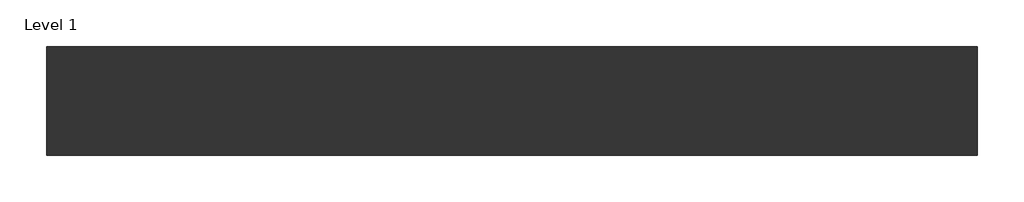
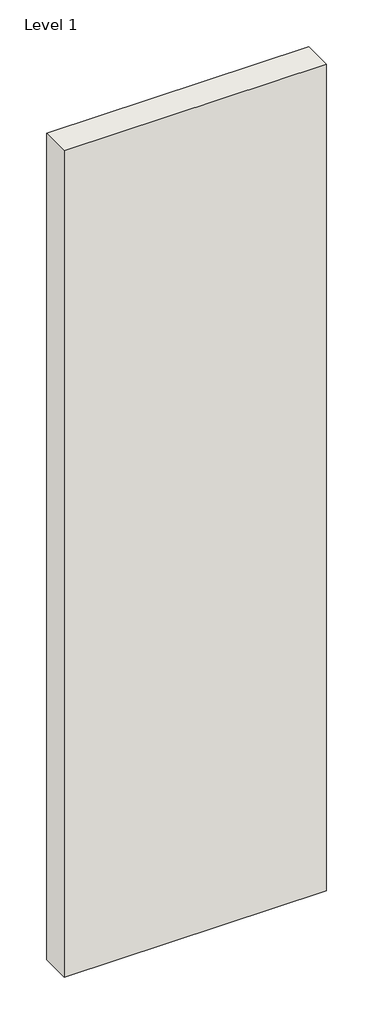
# One storey: 1 wall.
"""IFC4 building model written with IfcOpenShell, lengths in millimetres."""

from ifc_helpers import new_model, si_unit, origin, origin_with_axes, place, context, project, spatial, polyline, outline, extrude, element, save

model = new_model("IFC4")

# Units and contexts
model_context = context("Model", 3, world=origin())
ifc_project = project(units=[si_unit("LENGTHUNIT", "METRE", prefix="MILLI")], contexts=[model_context])

# Site, building, storey
site = spatial("IfcSite", under=ifc_project)
building = spatial("IfcBuilding", under=site)
storey = spatial("IfcBuildingStorey", under=building, Name="Level 1", Elevation=0.0)

# Wall
placement = place(None, origin())
element("IfcWall", 1, ObjectType="GEOWALL 35 140mm", at=placement, inside=storey, context=model_context, shape_type="SweptSolid", body=[
    extrude(outline(polyline([(28840.6235184, -59.371446), (27640.6235184, -59.371446), (27640.6235184, 80.628554), (28840.6235184, 80.628554), (28840.6235184, -59.371446)])), origin_with_axes(), (0.0, 0.0, 1.0), 4000.0),
])

save(model, "model.ifc")
